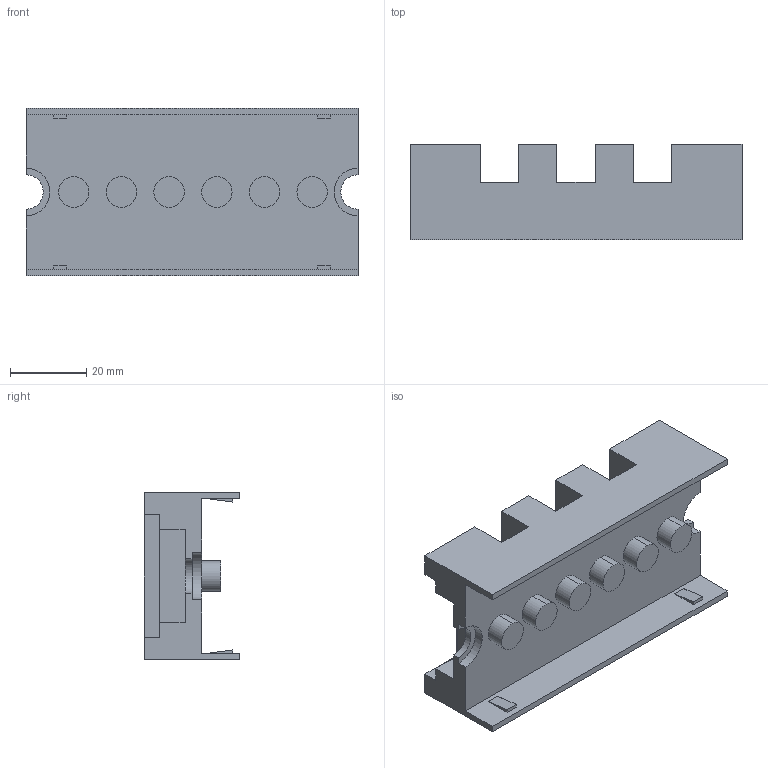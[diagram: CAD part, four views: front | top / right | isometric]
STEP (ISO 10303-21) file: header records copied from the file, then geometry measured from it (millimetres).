
FILE_DESCRIPTION (( 'STEP AP214' ), '1' );
FILE_NAME ('YIS40-10-03-087 Èçîëÿòîð øèíîäåðæàòåëÿ 87-10-3.STEP', '2025-08-21T09:18:17', ( '' ), ( '' ), 'SwSTEP 2.0', 'SolidWorks 2023', '' );
FILE_SCHEMA (( 'AUTOMOTIVE_DESIGN' ));
Length unit declared in the file: millimetre
Products named in the file (1): YIS40-10-03-087 Изолятор шинодержателя 87-10-3
Bounding box: 87 x 25 x 44 mm (x, y, z)
Volume: 40953.7 mm3; surface area: 18621.2 mm2
Topology: 1 solids, 1 shells, 110 faces, 288 edges, 192 vertices
Faces by surface type: plane 84, cylinder 26
Entity records: 3387 total; most frequent: CARTESIAN_POINT 591, ORIENTED_EDGE 576, DIRECTION 562, EDGE_CURVE 288, LINE 236, VECTOR 236, VERTEX_POINT 192, AXIS2_PLACEMENT_3D 163
